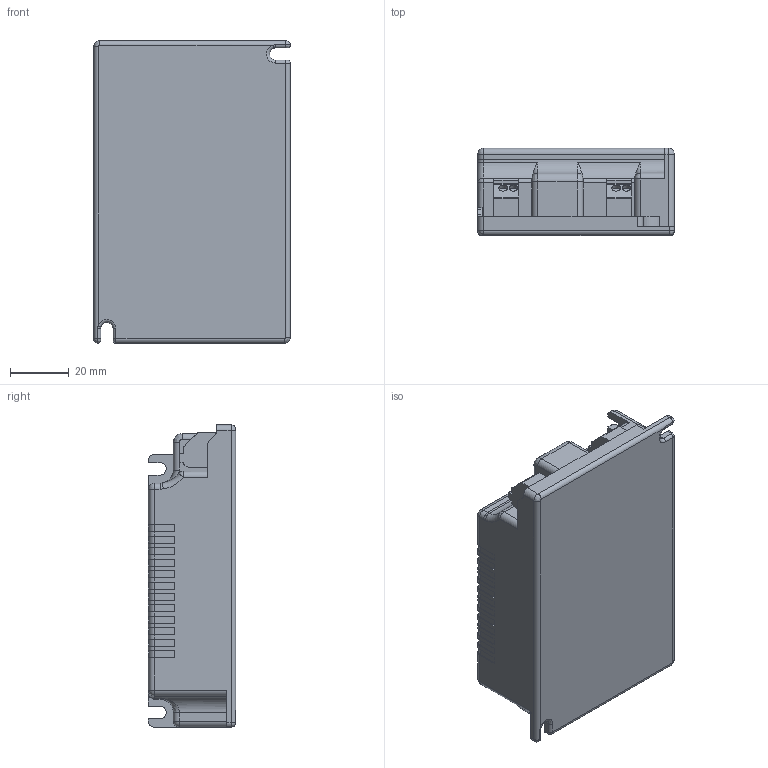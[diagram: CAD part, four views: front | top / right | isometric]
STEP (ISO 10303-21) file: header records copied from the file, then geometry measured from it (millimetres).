
FILE_DESCRIPTION((''),'2;1');
FILE_NAME('09550088Z','2012-10-12T',('emir.oezbadereli'),(''),'PRO/ENGINEER BY PARAMETRIC TECHNOLOGY CORPORATION, 2010480','PRO/ENGINEER BY PARAMETRIC TECHNOLOGY CORPORATION, 2010480','');
FILE_SCHEMA(('AUTOMOTIVE_DESIGN { 1 2 10303 214 0 1 1 1 }'));
Length unit declared in the file: millimetre
Products named in the file (1): 09550088Z
Bounding box: 67 x 29.7 x 103 mm (x, y, z)
Volume: 176396.7 mm3; surface area: 23973.6 mm2
Topology: 1 solids, 1 shells, 365 faces, 1014 edges, 657 vertices
Faces by surface type: plane 190, cylinder 145, bspline 11, sphere 10, torus 9
Entity records: 14385 total; most frequent: CARTESIAN_POINT 2443, ORIENTED_EDGE 2028, DIRECTION 2024, EDGE_CURVE 1014, VECTOR 686, LINE 686, AXIS2_PLACEMENT_3D 669, VERTEX_POINT 657
